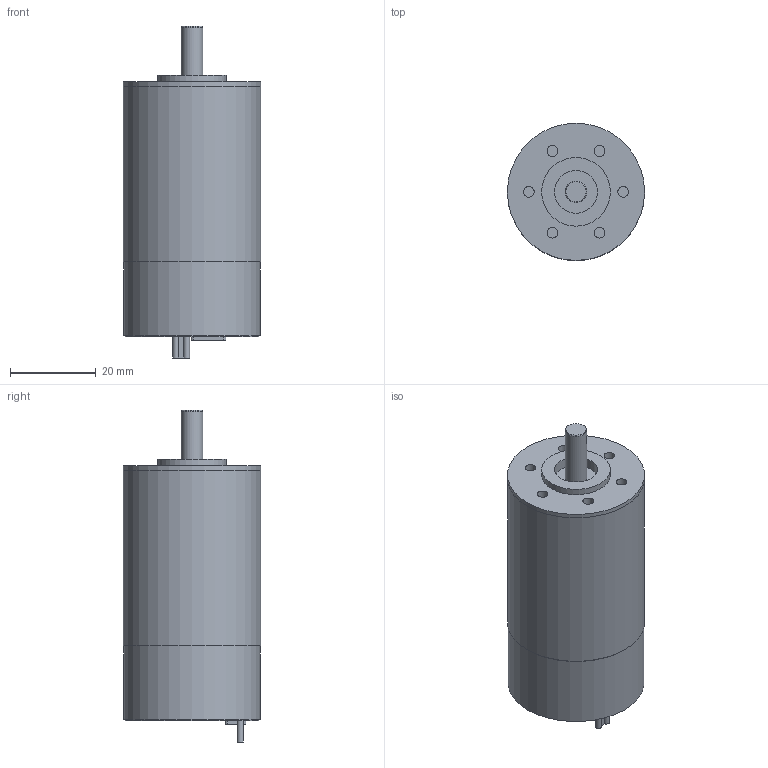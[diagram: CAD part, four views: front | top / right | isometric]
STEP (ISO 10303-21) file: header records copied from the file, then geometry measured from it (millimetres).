
FILE_DESCRIPTION(/* description */ (''),/* implementation_level */ '2;1');
FILE_NAME(/* name */ '3242.BX4_SCDC.stp',/* time_stamp */ '2012-10-31T09:05:20+01:00',/* author */ ('DR. FRITZ FAULHABER GmbH & Co. KG'),/* organization */ ('DR. FRITZ FAULHABER GmbH & Co. KG'),/* preprocessor_version */ 'ST-DEVELOPER v11',/* originating_system */ 'SIEMENS PLM Software NX 7.5',/* authorisation */ '');
FILE_SCHEMA (('AUTOMOTIVE_DESIGN { 1 0 10303 214 1 1 1 1 }'));
Length unit declared in the file: millimetre
Products named in the file (1): 3242.BX4_SCDC
Bounding box: 32 x 32 x 77.4 mm (x, y, z)
Volume: 47908.6 mm3; surface area: 8206.3 mm2
Topology: 1 solids, 1 shells, 52 faces, 98 edges, 63 vertices
Faces by surface type: cylinder 24, plane 23, torus 4, cone 1
Full cylindrical faces by diameter (mm): 2.5 x6, 5 x1, 10 x1, 16 x1, 31.05 x1, 31.8 x1, 31.99 x1, 32 x2
Entity records: 1258 total; most frequent: DIRECTION 240, CARTESIAN_POINT 195, ORIENTED_EDGE 162, AXIS2_PLACEMENT_3D 106, EDGE_LOOP 82, EDGE_CURVE 81, VERTEX_POINT 61, FACE_BOUND 53
